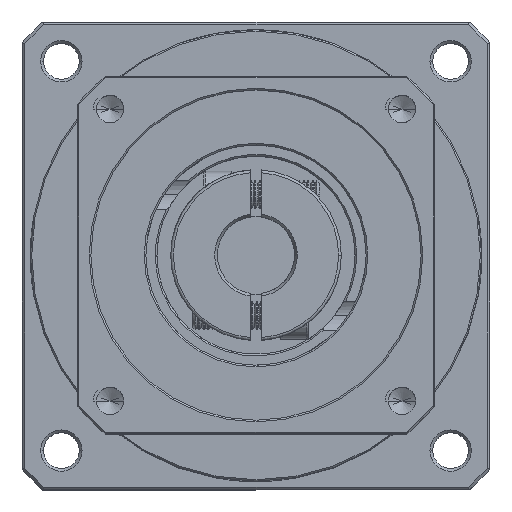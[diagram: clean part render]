
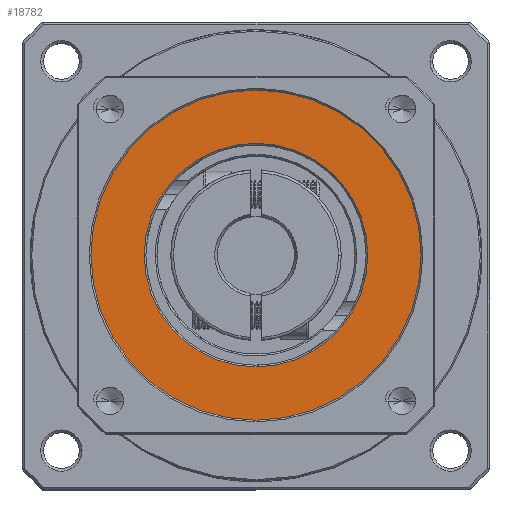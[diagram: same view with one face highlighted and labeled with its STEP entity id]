
A CAD part, top view. The second image highlights one B-rep face of the part: STEP entity #18782.
In plain terms, the highlighted planar face has unit normal (0, 0, 1).
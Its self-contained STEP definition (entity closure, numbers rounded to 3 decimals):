
#6014 = CIRCLE ( 'NONE', #84132, 30. ) ;
#9755 = EDGE_CURVE ( 'NONE', #56547, #23081, #127674, .T. ) ;
#9979 = CARTESIAN_POINT ( 'NONE',  ( -50.485, 43.615, -29.508 ) ) ;
#10060 = FACE_BOUND ( 'NONE', #110915, .T. ) ;
#10618 = AXIS2_PLACEMENT_3D ( 'NONE', #74857, #55066, #125384 ) ;
#12551 = PLANE ( 'NONE',  #37486 ) ;
#13375 = EDGE_LOOP ( 'NONE', ( #43293, #130448 ) ) ;
#18782 = ADVANCED_FACE ( 'NONE', ( #10060, #101309 ), #12551, .T. ) ;
#20870 = CARTESIAN_POINT ( 'NONE',  ( -50.485, 43.615, -29.508 ) ) ;
#21377 = DIRECTION ( 'NONE',  ( 1., 0., 0. ) ) ;
#22732 = DIRECTION ( 'NONE',  ( 1., 0., 0. ) ) ;
#23081 = VERTEX_POINT ( 'NONE', #72210 ) ;
#29091 = CIRCLE ( 'NONE', #48896, 30. ) ;
#30160 = DIRECTION ( 'NONE',  ( 0., 0., 1. ) ) ;
#32747 = ORIENTED_EDGE ( 'NONE', *, *, #9755, .T. ) ;
#37486 = AXIS2_PLACEMENT_3D ( 'NONE', #20870, #91714, #112310 ) ;
#41271 = DIRECTION ( 'NONE',  ( 0., 0., -1. ) ) ;
#42851 = EDGE_CURVE ( 'NONE', #126645, #61526, #29091, .T. ) ;
#43293 = ORIENTED_EDGE ( 'NONE', *, *, #79972, .T. ) ;
#48896 = AXIS2_PLACEMENT_3D ( 'NONE', #9979, #30160, #80731 ) ;
#54501 = EDGE_CURVE ( 'NONE', #23081, #56547, #71571, .T. ) ;
#55066 = DIRECTION ( 'NONE',  ( 0., 0., -1. ) ) ;
#56547 = VERTEX_POINT ( 'NONE', #66110 ) ;
#61526 = VERTEX_POINT ( 'NONE', #113029 ) ;
#66110 = CARTESIAN_POINT ( 'NONE',  ( -30.185, 43.615, -29.508 ) ) ;
#71571 = CIRCLE ( 'NONE', #92561, 20.3 ) ;
#72210 = CARTESIAN_POINT ( 'NONE',  ( -70.785, 43.615, -29.508 ) ) ;
#74224 = CARTESIAN_POINT ( 'NONE',  ( -50.485, 43.615, -29.508 ) ) ;
#74857 = CARTESIAN_POINT ( 'NONE',  ( -50.485, 43.615, -29.508 ) ) ;
#76439 = CARTESIAN_POINT ( 'NONE',  ( -80.485, 43.615, -29.508 ) ) ;
#79972 = EDGE_CURVE ( 'NONE', #61526, #126645, #6014, .T. ) ;
#80731 = DIRECTION ( 'NONE',  ( 1., 0., 0. ) ) ;
#83012 = DIRECTION ( 'NONE',  ( 0., 0., 1. ) ) ;
#84132 = AXIS2_PLACEMENT_3D ( 'NONE', #74224, #83012, #22732 ) ;
#89637 = ORIENTED_EDGE ( 'NONE', *, *, #54501, .T. ) ;
#91714 = DIRECTION ( 'NONE',  ( 0., 0., 1. ) ) ;
#92561 = AXIS2_PLACEMENT_3D ( 'NONE', #111519, #41271, #21377 ) ;
#101309 = FACE_OUTER_BOUND ( 'NONE', #13375, .T. ) ;
#110915 = EDGE_LOOP ( 'NONE', ( #32747, #89637 ) ) ;
#111519 = CARTESIAN_POINT ( 'NONE',  ( -50.485, 43.615, -29.508 ) ) ;
#112310 = DIRECTION ( 'NONE',  ( 1., 0., 0. ) ) ;
#113029 = CARTESIAN_POINT ( 'NONE',  ( -20.485, 43.615, -29.508 ) ) ;
#125384 = DIRECTION ( 'NONE',  ( 1., 0., 0. ) ) ;
#126645 = VERTEX_POINT ( 'NONE', #76439 ) ;
#127674 = CIRCLE ( 'NONE', #10618, 20.3 ) ;
#130448 = ORIENTED_EDGE ( 'NONE', *, *, #42851, .T. ) ;
